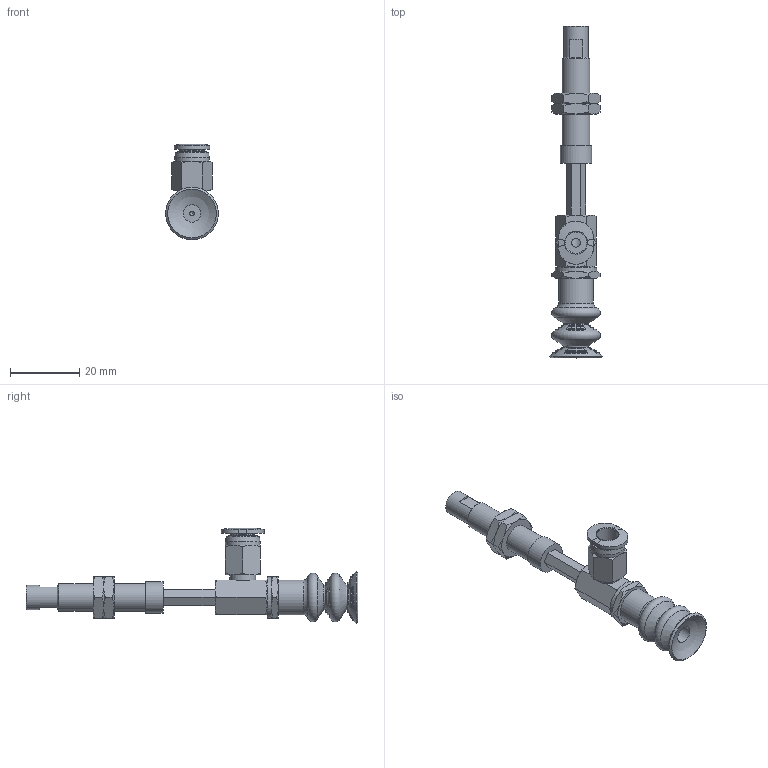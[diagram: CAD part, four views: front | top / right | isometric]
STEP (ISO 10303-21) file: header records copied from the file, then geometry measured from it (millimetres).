
FILE_DESCRIPTION(('STEP AP203'),'1');
FILE_NAME('-O.stp','2025-04-04T01:19:30',(' '),(' '),'Spatial InterOp 3D',' ',' ');
FILE_SCHEMA(('CONFIG_CONTROL_DESIGN'));
Length unit declared in the file: millimetre
Products named in the file (8): BNABPCYH-15-15-※-O; Adapter_napc-15-T; Connector_h-15-15; Nut napc_h-15-15; NAPCTH-15-15-FBODY; NAPCTH-15-15-MBODY; BPCG-15-※; PC-C_06-M5
Assembly tree (8 placements, depth 2):
  BNABPCYH-15-15-※-O
    Adapter_napc-15-T
    Connector_h-15-15
    Nut napc_h-15-15  x2
    NAPCTH-15-15-FBODY
    NAPCTH-15-15-MBODY
    BPCG-15-※
    PC-C_06-M5
Bounding box: 15.2 x 95.7 x 27.58 mm (x, y, z)
Volume: 6075.3 mm3; surface area: 7390.8 mm2
Topology: 7 solids, 10 shells, 298 faces, 831 edges, 531 vertices
Faces by surface type: plane 87, cone 84, sphere 58, torus 36, cylinder 26, bspline 4, revolution 3
Full cylindrical faces by diameter (mm): 1.25 x1, 4 x2, 4.134 x3, 5 x7, 7 x2, 7.188 x2, 7.4 x1, 8 x1, 8.2 x1, 9 x1, 10 x2, 12 x1
Entity records: 8611 total; most frequent: CARTESIAN_POINT 2539, DIRECTION 1213, ORIENTED_EDGE 1062, AXIS2_PLACEMENT_3D 555, EDGE_CURVE 533, EDGE_LOOP 384, VERTEX_POINT 372, CIRCLE 277
